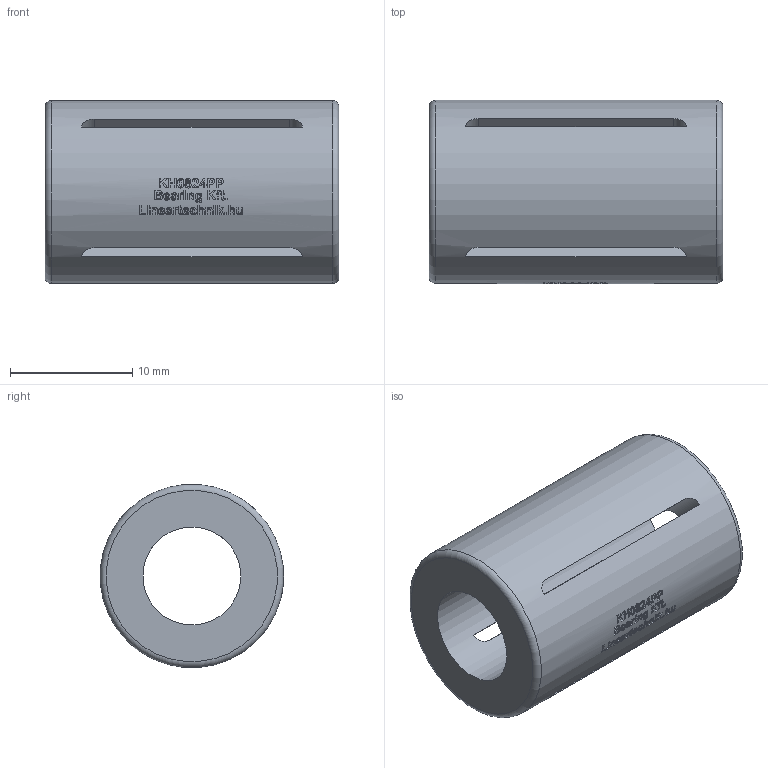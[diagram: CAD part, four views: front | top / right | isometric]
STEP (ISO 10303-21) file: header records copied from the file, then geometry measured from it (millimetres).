
FILE_DESCRIPTION(/* description */ (''),/* implementation_level */ '2;1');
FILE_NAME(/* name */ 'KH0824PP',/* time_stamp */ '2019-07-11T11:31:02+02:00',/* author */ ('VĂ©gh MĂˇtĂ©'),/* organization */ ('Bearing Kft'),/* preprocessor_version */ 'ST-DEVELOPER v16.7',/* originating_system */ 'DEX',/* authorisation */ $);
FILE_SCHEMA (('AUTOMOTIVE_DESIGN {1 0 10303 214 3 1 1}'));
Length unit declared in the file: millimetre
Products named in the file (1): KH0824PP
Bounding box: 24 x 14.97 x 14.94 mm (x, y, z)
Volume: 2781.8 mm3; surface area: 2359.5 mm2
Topology: 1 solids, 1 shells, 342 faces, 864 edges, 574 vertices
Faces by surface type: plane 180, bspline 98, cylinder 62, torus 2
Full cylindrical faces by diameter (mm): 8 x1, 15 x1
Entity records: 14384 total; most frequent: CARTESIAN_POINT 6677, ORIENTED_EDGE 1706, DIRECTION 1293, EDGE_CURVE 853, VERTEX_POINT 574, LINE 475, VECTOR 475, EDGE_LOOP 413
